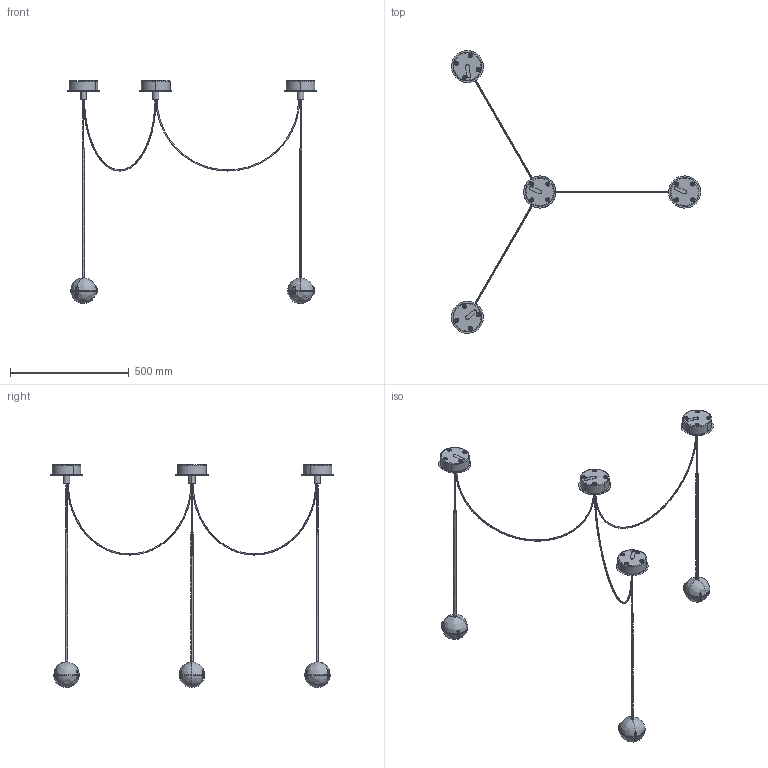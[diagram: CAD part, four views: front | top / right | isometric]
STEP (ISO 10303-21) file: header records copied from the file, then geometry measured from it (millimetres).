
FILE_DESCRIPTION(/* description */ (''),/* implementation_level */ '2;1');
FILE_NAME(/* name */ 'CINI&N~4',/* time_stamp */ '2016-09-01T17:47:38+02:00',/* author */ (''),/* organization */ (''),/* preprocessor_version */ 'ST-DEVELOPER v15',/* originating_system */ '',/* authorisation */ '');
FILE_SCHEMA (('CONFIG_CONTROL_DESIGN'));
Length unit declared in the file: millimetre
Products named in the file (2): CONVIVIO_NEW_LED_SOPRATAVOLO_TR_ASM; CONVIVIO_NEW_LED_SOPRATAVOLO_TR
Assembly tree (1 placements, depth 2):
  CONVIVIO_NEW_LED_SOPRATAVOLO_TR_ASM
    CONVIVIO_NEW_LED_SOPRATAVOLO_TR
Bounding box: 1048.48 x 1189.76 x 938.78 mm (x, y, z)
Surface area: 421161.6 mm2 (no closed solid volume)
Topology: 0 solids, 1 shells, 576 faces, 1501 edges, 930 vertices
Faces by surface type: bspline 405, plane 171
Entity records: 34406 total; most frequent: CARTESIAN_POINT 25836, ORIENTED_EDGE 2888, EDGE_CURVE 1471, VERTEX_POINT 930, B_SPLINE_CURVE_WITH_KNOTS 700, EDGE_LOOP 636, ADVANCED_FACE 576, FACE_OUTER_BOUND 576
